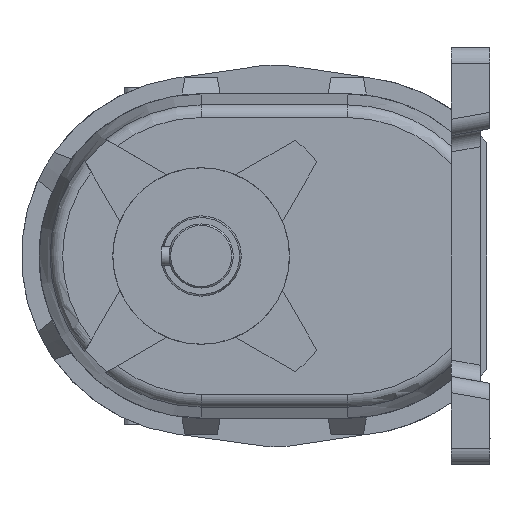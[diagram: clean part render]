
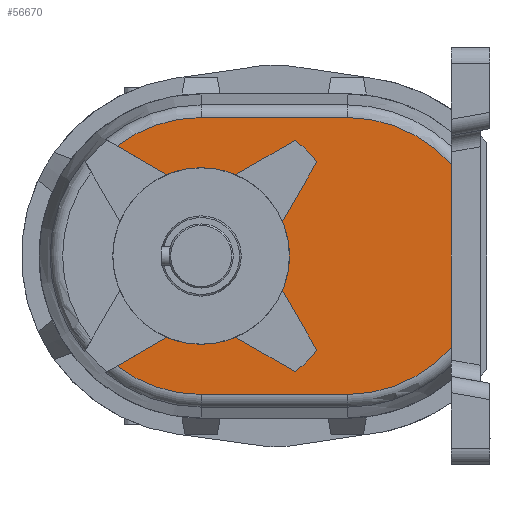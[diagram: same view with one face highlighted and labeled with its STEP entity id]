
A CAD part, left-side view. The second image highlights one B-rep face of the part: STEP entity #56670.
In plain terms, the highlighted planar face has unit normal (-1, 0, 0) as drawn and (0, 1, -0.026) by its records, which use the part's own axes.
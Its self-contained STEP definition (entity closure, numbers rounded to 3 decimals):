
#39020=CARTESIAN_POINT('',(-35.625,654.014,
-208.218));
#39030=VERTEX_POINT('',#39020);
#39060=CARTESIAN_POINT('',(-74.332,654.014,
-208.218));
#39070=DIRECTION('',(1.,0.,0.));
#39080=VECTOR('',#39070,1.);
#39090=LINE('',#39060,#39080);
#39100=CARTESIAN_POINT('',(-92.375,654.014,
-208.218));
#39110=VERTEX_POINT('',#39100);
#39120=EDGE_CURVE('',#39110,#39030,#39090,.T.);
#54950=CARTESIAN_POINT('',(-27.93,655.287,
-159.581));
#54960=VERTEX_POINT('',#54950);
#55140=CARTESIAN_POINT('',(-34.654,655.111,
-166.302));
#55150=VERTEX_POINT('',#55140);
#55180=CARTESIAN_POINT('',(-64.,656.055,
-130.244));
#55190=DIRECTION('',(0.,1.,
-0.026));
#55200=DIRECTION('',(-1.,0.,0.));
#55210=AXIS2_PLACEMENT_3D('',#55180,#55190,#55200);
#55220=CIRCLE('',#55210,46.5);
#55230=EDGE_CURVE('',#54960,#55150,#55220,.T.);
#55280=CARTESIAN_POINT('',(-95.721,653.87,
-213.716));
#55290=DIRECTION('',(0.,1.,
-0.026));
#55300=DIRECTION('',(-1.,0.,0.));
#55310=AXIS2_PLACEMENT_3D('',#55280,#55290,#55300);
#55320=PLANE('',#55310);
#55330=CARTESIAN_POINT('',(-45.181,656.041,
-130.778));
#55340=DIRECTION('',(-0.5,-0.023,
-0.866));
#55350=VECTOR('',#55340,1.);
#55360=LINE('',#55330,#55350);
#55370=CARTESIAN_POINT('',(-29.736,656.742,
-104.036));
#55380=VERTEX_POINT('',#55370);
#55390=CARTESIAN_POINT('',(-38.679,656.336,
-119.52));
#55400=VERTEX_POINT('',#55390);
#55410=EDGE_CURVE('',#55380,#55400,#55360,.T.);
#55420=ORIENTED_EDGE('',*,*,#55410,.F.);
#55430=CARTESIAN_POINT('',(-64.,656.055,
-130.244));
#55440=DIRECTION('',(0.,1.,
-0.026));
#55450=DIRECTION('',(-1.,0.,0.));
#55460=AXIS2_PLACEMENT_3D('',#55430,#55440,#55450);
#55470=CIRCLE('',#55460,27.5);
#55480=CARTESIAN_POINT('',(-36.5,656.055,
-130.244));
#55490=VERTEX_POINT('',#55480);
#55500=EDGE_CURVE('',#55400,#55490,#55470,.T.);
#55510=ORIENTED_EDGE('',*,*,#55500,.F.);
#55520=CARTESIAN_POINT('',(-38.679,655.774,
-140.969));
#55530=VERTEX_POINT('',#55520);
#55540=EDGE_CURVE('',#55490,#55530,#55470,.T.);
#55550=ORIENTED_EDGE('',*,*,#55540,.F.);
#55560=CARTESIAN_POINT('',(-44.565,656.041,
-130.778));
#55570=DIRECTION('',(0.5,-0.023,
-0.866));
#55580=VECTOR('',#55570,1.);
#55590=LINE('',#55560,#55580);
#55600=EDGE_CURVE('',#55530,#54960,#55590,.T.);
#55610=ORIENTED_EDGE('',*,*,#55600,.F.);
#55620=ORIENTED_EDGE('',*,*,#55230,.F.);
#55630=CARTESIAN_POINT('',(-74.332,655.711,
-143.402));
#55640=DIRECTION('',(-0.866,0.013,
0.5));
#55650=VECTOR('',#55640,1.);
#55660=LINE('',#55630,#55650);
#55670=CARTESIAN_POINT('',(-53.272,655.392,
-155.557));
#55680=VERTEX_POINT('',#55670);
#55690=EDGE_CURVE('',#55150,#55680,#55660,.T.);
#55700=ORIENTED_EDGE('',*,*,#55690,.F.);
#55710=CARTESIAN_POINT('',(-74.728,655.392,
-155.557));
#55720=VERTEX_POINT('',#55710);
#55730=EDGE_CURVE('',#55680,#55720,#55470,.T.);
#55740=ORIENTED_EDGE('',*,*,#55730,.F.);
#55750=CARTESIAN_POINT('',(-74.332,655.398,
-155.328));
#55760=DIRECTION('',(-0.866,-0.013,
-0.5));
#55770=VECTOR('',#55760,1.);
#55780=LINE('',#55750,#55770);
#55790=CARTESIAN_POINT('',(-93.346,655.111,
-166.302));
#55800=VERTEX_POINT('',#55790);
#55810=EDGE_CURVE('',#55720,#55800,#55780,.T.);
#55820=ORIENTED_EDGE('',*,*,#55810,.F.);
#55830=CARTESIAN_POINT('',(-64.,656.055,
-130.244));
#55840=DIRECTION('',(0.,-1.,
0.026));
#55850=DIRECTION('',(1.,0.,0.));
#55860=AXIS2_PLACEMENT_3D('',#55830,#55840,#55850);
#55870=CIRCLE('',#55860,46.5);
#55880=CARTESIAN_POINT('',(-100.07,655.287,
-159.581));
#55890=VERTEX_POINT('',#55880);
#55900=EDGE_CURVE('',#55890,#55800,#55870,.T.);
#55910=ORIENTED_EDGE('',*,*,#55900,.T.);
#55920=CARTESIAN_POINT('',(-83.435,656.041,
-130.778));
#55930=DIRECTION('',(0.5,0.023,
0.866));
#55940=VECTOR('',#55930,1.);
#55950=LINE('',#55920,#55940);
#55960=CARTESIAN_POINT('',(-89.321,655.774,
-140.969));
#55970=VERTEX_POINT('',#55960);
#55980=EDGE_CURVE('',#55890,#55970,#55950,.T.);
#55990=ORIENTED_EDGE('',*,*,#55980,.F.);
#56000=CARTESIAN_POINT('',(-91.5,656.055,
-130.244));
#56010=VERTEX_POINT('',#56000);
#56020=EDGE_CURVE('',#55970,#56010,#55470,.T.);
#56030=ORIENTED_EDGE('',*,*,#56020,.F.);
#56040=CARTESIAN_POINT('',(-89.321,656.336,
-119.52));
#56050=VERTEX_POINT('',#56040);
#56060=EDGE_CURVE('',#56010,#56050,#55470,.T.);
#56070=ORIENTED_EDGE('',*,*,#56060,.F.);
#56080=CARTESIAN_POINT('',(-82.819,656.041,
-130.778));
#56090=DIRECTION('',(-0.5,0.023,
0.866));
#56100=VECTOR('',#56090,1.);
#56110=LINE('',#56080,#56100);
#56120=CARTESIAN_POINT('',(-98.264,656.742,
-104.036));
#56130=VERTEX_POINT('',#56120);
#56140=EDGE_CURVE('',#56050,#56130,#56110,.T.);
#56150=ORIENTED_EDGE('',*,*,#56140,.F.);
#56160=CARTESIAN_POINT('',(-64.,656.055,
-130.244));
#56170=DIRECTION('',(0.,-1.,
0.026));
#56180=DIRECTION('',(1.,0.,0.));
#56190=AXIS2_PLACEMENT_3D('',#56160,#56170,#56180);
#56200=CIRCLE('',#56190,43.144);
#56210=CARTESIAN_POINT('',(-107.144,656.055,
-130.244));
#56220=VERTEX_POINT('',#56210);
#56230=EDGE_CURVE('',#56130,#56220,#56200,.T.);
#56240=ORIENTED_EDGE('',*,*,#56230,.F.);
#56250=CARTESIAN_POINT('',(-107.144,656.041,
-130.778));
#56260=DIRECTION('',(0.,0.026,
1.));
#56270=VECTOR('',#56260,1.);
#56280=LINE('',#56250,#56270);
#56290=CARTESIAN_POINT('',(-107.144,654.864,
-175.729));
#56300=VERTEX_POINT('',#56290);
#56310=EDGE_CURVE('',#56300,#56220,#56280,.T.);
#56320=ORIENTED_EDGE('',*,*,#56310,.T.);
#56330=CARTESIAN_POINT('',(-64.,654.864,
-175.729));
#56340=DIRECTION('',(0.,-1.,
0.026));
#56350=DIRECTION('',(1.,0.,0.));
#56360=AXIS2_PLACEMENT_3D('',#56330,#56340,#56350);
#56370=CIRCLE('',#56360,43.144);
#56380=EDGE_CURVE('',#56300,#39110,#56370,.T.);
#56390=ORIENTED_EDGE('',*,*,#56380,.F.);
#56400=ORIENTED_EDGE('',*,*,#39120,.F.);
#56410=CARTESIAN_POINT('',(-64.,654.864,
-175.729));
#56420=DIRECTION('',(0.,-1.,
0.026));
#56430=DIRECTION('',(1.,0.,0.));
#56440=AXIS2_PLACEMENT_3D('',#56410,#56420,#56430);
#56450=CIRCLE('',#56440,43.144);
#56460=CARTESIAN_POINT('',(-20.856,654.864,
-175.729));
#56470=VERTEX_POINT('',#56460);
#56480=EDGE_CURVE('',#39030,#56470,#56450,.T.);
#56490=ORIENTED_EDGE('',*,*,#56480,.F.);
#56500=CARTESIAN_POINT('',(-20.856,656.041,
-130.778));
#56510=DIRECTION('',(0.,-0.026,
-1.));
#56520=VECTOR('',#56510,1.);
#56530=LINE('',#56500,#56520);
#56540=CARTESIAN_POINT('',(-20.856,656.055,
-130.244));
#56550=VERTEX_POINT('',#56540);
#56560=EDGE_CURVE('',#56550,#56470,#56530,.T.);
#56570=ORIENTED_EDGE('',*,*,#56560,.T.);
#56580=CARTESIAN_POINT('',(-64.,656.055,
-130.244));
#56590=DIRECTION('',(0.,-1.,
0.026));
#56600=DIRECTION('',(1.,0.,0.));
#56610=AXIS2_PLACEMENT_3D('',#56580,#56590,#56600);
#56620=CIRCLE('',#56610,43.144);
#56630=EDGE_CURVE('',#56550,#55380,#56620,.T.);
#56640=ORIENTED_EDGE('',*,*,#56630,.F.);
#56650=EDGE_LOOP('',(#56640,#56570,#56490,#56400,#56390,#56320,#56240,
#56150,#56070,#56030,#55990,#55910,#55820,#55740,#55700,#55620,#55610,
#55550,#55510,#55420));
#56660=FACE_OUTER_BOUND('',#56650,.T.);
#56670=ADVANCED_FACE('',(#56660),#55320,.T.);
